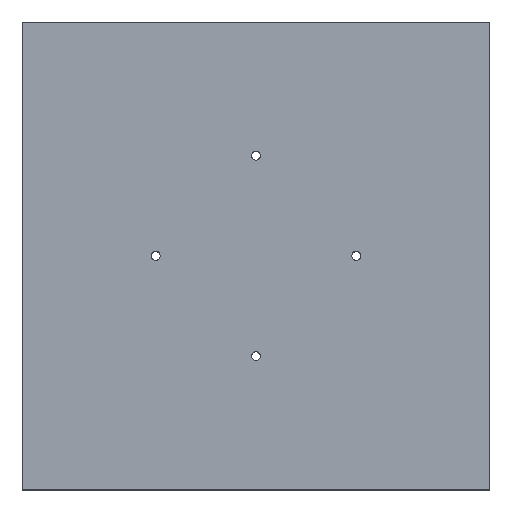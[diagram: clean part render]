
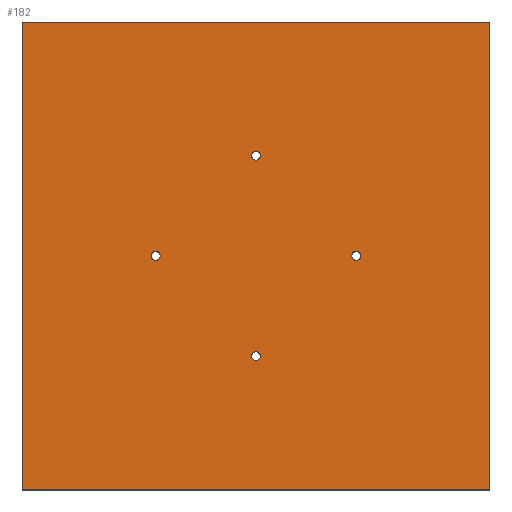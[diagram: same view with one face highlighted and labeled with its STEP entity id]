
A CAD part, top view. The second image highlights one B-rep face of the part: STEP entity #182.
In plain terms, the highlighted planar face has unit normal (0, 0, 1).
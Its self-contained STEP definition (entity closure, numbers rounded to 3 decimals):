
#28 = AXIS2_PLACEMENT_3D ( 'NONE', #923, #1403, #944 ) ;
#30 = DIRECTION ( 'NONE',  ( 0., 1., 0. ) ) ;
#33 = DIRECTION ( 'NONE',  ( 1., 0., 0. ) ) ;
#83 = FACE_BOUND ( 'NONE', #539, .T. ) ;
#160 = EDGE_CURVE ( 'NONE', #442, #173, #1273, .T. ) ;
#172 = EDGE_CURVE ( 'NONE', #1148, #1566, #632, .T. ) ;
#173 = VERTEX_POINT ( 'NONE', #1466 ) ;
#182 = ADVANCED_FACE ( 'NONE', ( #2032, #1663, #207, #1991, #83 ), #184, .F. ) ;
#184 = PLANE ( 'NONE',  #1199 ) ;
#207 = FACE_BOUND ( 'NONE', #547, .T. ) ;
#278 = EDGE_CURVE ( 'NONE', #173, #442, #1411, .T. ) ;
#306 = VERTEX_POINT ( 'NONE', #1237 ) ;
#314 = CARTESIAN_POINT ( 'NONE',  ( 30., 52.5, 22.5 ) ) ;
#324 = ORIENTED_EDGE ( 'NONE', *, *, #999, .T. ) ;
#360 = CIRCLE ( 'NONE', #1239, 1. ) ;
#374 = EDGE_CURVE ( 'NONE', #306, #1107, #360, .T. ) ;
#404 = DIRECTION ( 'NONE',  ( 0., 0., 1. ) ) ;
#405 = DIRECTION ( 'NONE',  ( -1., 0., 0. ) ) ;
#418 = VERTEX_POINT ( 'NONE', #1152 ) ;
#442 = VERTEX_POINT ( 'NONE', #1798 ) ;
#460 = CARTESIAN_POINT ( 'NONE',  ( 52.5, 75., 22.5 ) ) ;
#521 = CARTESIAN_POINT ( 'NONE',  ( 105., 0., 22.5 ) ) ;
#524 = LINE ( 'NONE', #1670, #1621 ) ;
#539 = EDGE_LOOP ( 'NONE', ( #1402, #1003 ) ) ;
#547 = EDGE_LOOP ( 'NONE', ( #1921, #1881 ) ) ;
#594 = CARTESIAN_POINT ( 'NONE',  ( 53.5, 30., 22.5 ) ) ;
#599 = EDGE_CURVE ( 'NONE', #772, #1002, #1421, .T. ) ;
#604 = VERTEX_POINT ( 'NONE', #1397 ) ;
#606 = CIRCLE ( 'NONE', #1450, 1. ) ;
#629 = DIRECTION ( 'NONE',  ( 0., 0., 1. ) ) ;
#632 = CIRCLE ( 'NONE', #667, 1. ) ;
#661 = CARTESIAN_POINT ( 'NONE',  ( 52.5, 30., 22.5 ) ) ;
#667 = AXIS2_PLACEMENT_3D ( 'NONE', #661, #1337, #684 ) ;
#684 = DIRECTION ( 'NONE',  ( 1., 0., 0. ) ) ;
#692 = CARTESIAN_POINT ( 'NONE',  ( 52.5, 30., 22.5 ) ) ;
#694 = DIRECTION ( 'NONE',  ( 0., 0., 1. ) ) ;
#703 = CARTESIAN_POINT ( 'NONE',  ( 0., 0., 22.5 ) ) ;
#747 = EDGE_CURVE ( 'NONE', #1930, #1436, #1960, .T. ) ;
#752 = ORIENTED_EDGE ( 'NONE', *, *, #160, .F. ) ;
#772 = VERTEX_POINT ( 'NONE', #1623 ) ;
#845 = VECTOR ( 'NONE', #30, 1000. ) ;
#853 = CARTESIAN_POINT ( 'NONE',  ( 51.5, 30., 22.5 ) ) ;
#857 = DIRECTION ( 'NONE',  ( 1., 0., 0. ) ) ;
#861 = ORIENTED_EDGE ( 'NONE', *, *, #1347, .T. ) ;
#901 = DIRECTION ( 'NONE',  ( -1., 0., 0. ) ) ;
#906 = VECTOR ( 'NONE', #901, 1000. ) ;
#923 = CARTESIAN_POINT ( 'NONE',  ( 75., 52.5, 22.5 ) ) ;
#944 = DIRECTION ( 'NONE',  ( 1., 0., 0. ) ) ;
#953 = DIRECTION ( 'NONE',  ( 0., 0., 1. ) ) ;
#999 = EDGE_CURVE ( 'NONE', #418, #772, #1341, .T. ) ;
#1002 = VERTEX_POINT ( 'NONE', #1510 ) ;
#1003 = ORIENTED_EDGE ( 'NONE', *, *, #1515, .F. ) ;
#1010 = CARTESIAN_POINT ( 'NONE',  ( 52.5, 75., 22.5 ) ) ;
#1028 = DIRECTION ( 'NONE',  ( 0., -1., 0. ) ) ;
#1097 = CARTESIAN_POINT ( 'NONE',  ( 74., 52.5, 22.5 ) ) ;
#1107 = VERTEX_POINT ( 'NONE', #1719 ) ;
#1148 = VERTEX_POINT ( 'NONE', #594 ) ;
#1152 = CARTESIAN_POINT ( 'NONE',  ( 105., 0., 22.5 ) ) ;
#1173 = DIRECTION ( 'NONE',  ( 1., 0., 0. ) ) ;
#1176 = CARTESIAN_POINT ( 'NONE',  ( 0., 0., 22.5 ) ) ;
#1199 = AXIS2_PLACEMENT_3D ( 'NONE', #1176, #1832, #405 ) ;
#1224 = CARTESIAN_POINT ( 'NONE',  ( 0., 105., 22.5 ) ) ;
#1225 = CARTESIAN_POINT ( 'NONE',  ( 76., 52.5, 22.5 ) ) ;
#1237 = CARTESIAN_POINT ( 'NONE',  ( 29., 52.5, 22.5 ) ) ;
#1239 = AXIS2_PLACEMENT_3D ( 'NONE', #314, #629, #1272 ) ;
#1249 = DIRECTION ( 'NONE',  ( 0., 0., 1. ) ) ;
#1272 = DIRECTION ( 'NONE',  ( 1., 0., 0. ) ) ;
#1273 = CIRCLE ( 'NONE', #1546, 1. ) ;
#1312 = CARTESIAN_POINT ( 'NONE',  ( 75., 52.5, 22.5 ) ) ;
#1320 = EDGE_CURVE ( 'NONE', #1566, #1148, #606, .T. ) ;
#1324 = EDGE_CURVE ( 'NONE', #604, #418, #524, .T. ) ;
#1337 = DIRECTION ( 'NONE',  ( 0., 0., 1. ) ) ;
#1341 = LINE ( 'NONE', #521, #845 ) ;
#1347 = EDGE_CURVE ( 'NONE', #1002, #604, #1506, .T. ) ;
#1397 = CARTESIAN_POINT ( 'NONE',  ( 0., 0., 22.5 ) ) ;
#1402 = ORIENTED_EDGE ( 'NONE', *, *, #374, .F. ) ;
#1403 = DIRECTION ( 'NONE',  ( 0., 0., 1. ) ) ;
#1411 = CIRCLE ( 'NONE', #1989, 1. ) ;
#1421 = LINE ( 'NONE', #1224, #906 ) ;
#1436 = VERTEX_POINT ( 'NONE', #1225 ) ;
#1450 = AXIS2_PLACEMENT_3D ( 'NONE', #692, #404, #857 ) ;
#1466 = CARTESIAN_POINT ( 'NONE',  ( 53.5, 75., 22.5 ) ) ;
#1506 = LINE ( 'NONE', #703, #1725 ) ;
#1510 = CARTESIAN_POINT ( 'NONE',  ( 0., 105., 22.5 ) ) ;
#1515 = EDGE_CURVE ( 'NONE', #1107, #306, #1656, .T. ) ;
#1516 = CIRCLE ( 'NONE', #28, 1. ) ;
#1546 = AXIS2_PLACEMENT_3D ( 'NONE', #1010, #694, #33 ) ;
#1557 = ORIENTED_EDGE ( 'NONE', *, *, #1324, .T. ) ;
#1566 = VERTEX_POINT ( 'NONE', #853 ) ;
#1569 = ORIENTED_EDGE ( 'NONE', *, *, #172, .F. ) ;
#1599 = DIRECTION ( 'NONE',  ( 1., 0., 0. ) ) ;
#1621 = VECTOR ( 'NONE', #1173, 1000. ) ;
#1623 = CARTESIAN_POINT ( 'NONE',  ( 105., 105., 22.5 ) ) ;
#1656 = CIRCLE ( 'NONE', #1931, 1. ) ;
#1663 = FACE_BOUND ( 'NONE', #1732, .T. ) ;
#1670 = CARTESIAN_POINT ( 'NONE',  ( 0., 0., 22.5 ) ) ;
#1719 = CARTESIAN_POINT ( 'NONE',  ( 31., 52.5, 22.5 ) ) ;
#1725 = VECTOR ( 'NONE', #1028, 1000. ) ;
#1732 = EDGE_LOOP ( 'NONE', ( #752, #2008 ) ) ;
#1798 = CARTESIAN_POINT ( 'NONE',  ( 51.5, 75., 22.5 ) ) ;
#1832 = DIRECTION ( 'NONE',  ( 0., 0., -1. ) ) ;
#1881 = ORIENTED_EDGE ( 'NONE', *, *, #1949, .F. ) ;
#1890 = AXIS2_PLACEMENT_3D ( 'NONE', #1312, #1955, #1936 ) ;
#1904 = DIRECTION ( 'NONE',  ( 1., 0., 0. ) ) ;
#1921 = ORIENTED_EDGE ( 'NONE', *, *, #747, .F. ) ;
#1930 = VERTEX_POINT ( 'NONE', #1097 ) ;
#1931 = AXIS2_PLACEMENT_3D ( 'NONE', #2061, #1249, #1904 ) ;
#1936 = DIRECTION ( 'NONE',  ( 1., 0., 0. ) ) ;
#1942 = ORIENTED_EDGE ( 'NONE', *, *, #599, .T. ) ;
#1949 = EDGE_CURVE ( 'NONE', #1436, #1930, #1516, .T. ) ;
#1955 = DIRECTION ( 'NONE',  ( 0., 0., 1. ) ) ;
#1960 = CIRCLE ( 'NONE', #1890, 1. ) ;
#1989 = AXIS2_PLACEMENT_3D ( 'NONE', #460, #953, #1599 ) ;
#1991 = FACE_BOUND ( 'NONE', #2037, .T. ) ;
#2008 = ORIENTED_EDGE ( 'NONE', *, *, #278, .F. ) ;
#2032 = FACE_OUTER_BOUND ( 'NONE', #2035, .T. ) ;
#2035 = EDGE_LOOP ( 'NONE', ( #861, #1557, #324, #1942 ) ) ;
#2037 = EDGE_LOOP ( 'NONE', ( #2043, #1569 ) ) ;
#2043 = ORIENTED_EDGE ( 'NONE', *, *, #1320, .F. ) ;
#2061 = CARTESIAN_POINT ( 'NONE',  ( 30., 52.5, 22.5 ) ) ;
